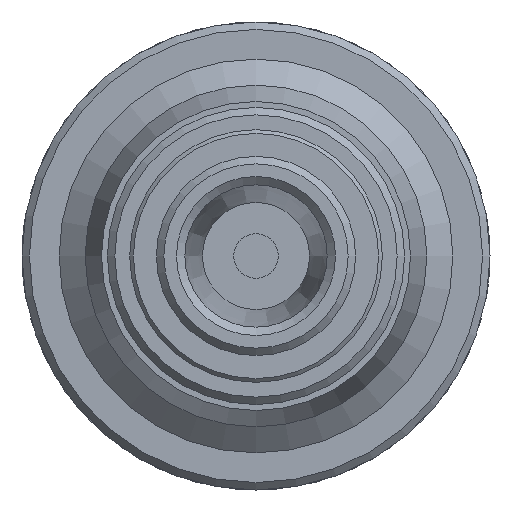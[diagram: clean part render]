
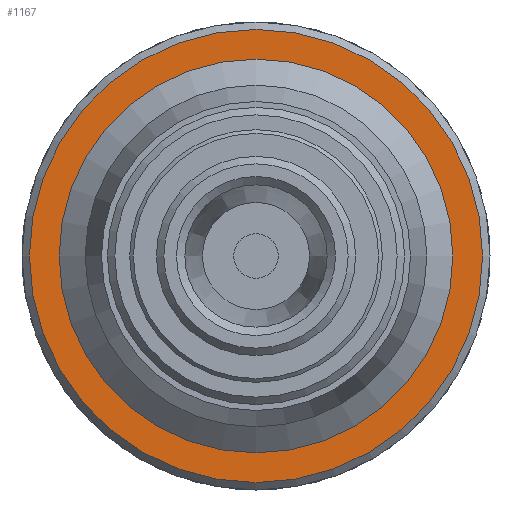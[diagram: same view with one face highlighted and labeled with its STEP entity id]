
A CAD part, front view. The second image highlights one B-rep face of the part: STEP entity #1167.
In plain terms, the highlighted planar face has unit normal (0, -1, 0).
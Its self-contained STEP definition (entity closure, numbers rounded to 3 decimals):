
#74=FACE_BOUND('',#211,.T.);
#94=PLANE('',#1296);
#137=FACE_OUTER_BOUND('',#210,.T.);
#210=EDGE_LOOP('',(#905));
#211=EDGE_LOOP('',(#906,#907));
#406=CIRCLE('',#1295,30.5);
#407=CIRCLE('',#1297,26.5);
#408=CIRCLE('',#1298,26.5);
#532=VERTEX_POINT('',#2112);
#533=VERTEX_POINT('',#2116);
#534=VERTEX_POINT('',#2117);
#679=EDGE_CURVE('',#532,#532,#406,.T.);
#681=EDGE_CURVE('',#533,#534,#407,.T.);
#682=EDGE_CURVE('',#534,#533,#408,.T.);
#905=ORIENTED_EDGE('',*,*,#679,.F.);
#906=ORIENTED_EDGE('',*,*,#681,.F.);
#907=ORIENTED_EDGE('',*,*,#682,.F.);
#1167=ADVANCED_FACE('',(#137,#74),#94,.T.);
#1295=AXIS2_PLACEMENT_3D('',#2113,#1553,#1554);
#1296=AXIS2_PLACEMENT_3D('',#2115,#1556,#1557);
#1297=AXIS2_PLACEMENT_3D('',#2118,#1558,#1559);
#1298=AXIS2_PLACEMENT_3D('',#2119,#1560,#1561);
#1553=DIRECTION('center_axis',(0.,1.,0.));
#1554=DIRECTION('ref_axis',(-1.,0.,0.));
#1556=DIRECTION('center_axis',(0.,-1.,0.));
#1557=DIRECTION('ref_axis',(0.,0.,-1.));
#1558=DIRECTION('center_axis',(0.,-1.,0.));
#1559=DIRECTION('ref_axis',(1.,0.,0.));
#1560=DIRECTION('center_axis',(0.,-1.,0.));
#1561=DIRECTION('ref_axis',(1.,0.,0.));
#2112=CARTESIAN_POINT('',(30.5,73.632,0.));
#2113=CARTESIAN_POINT('Origin',(0.,73.632,
0.));
#2115=CARTESIAN_POINT('Origin',(26.5,73.632,0.));
#2116=CARTESIAN_POINT('',(26.5,73.632,0.));
#2117=CARTESIAN_POINT('',(-26.5,73.632,0.));
#2118=CARTESIAN_POINT('Origin',(0.,73.632,
0.));
#2119=CARTESIAN_POINT('Origin',(0.,73.632,
0.));
